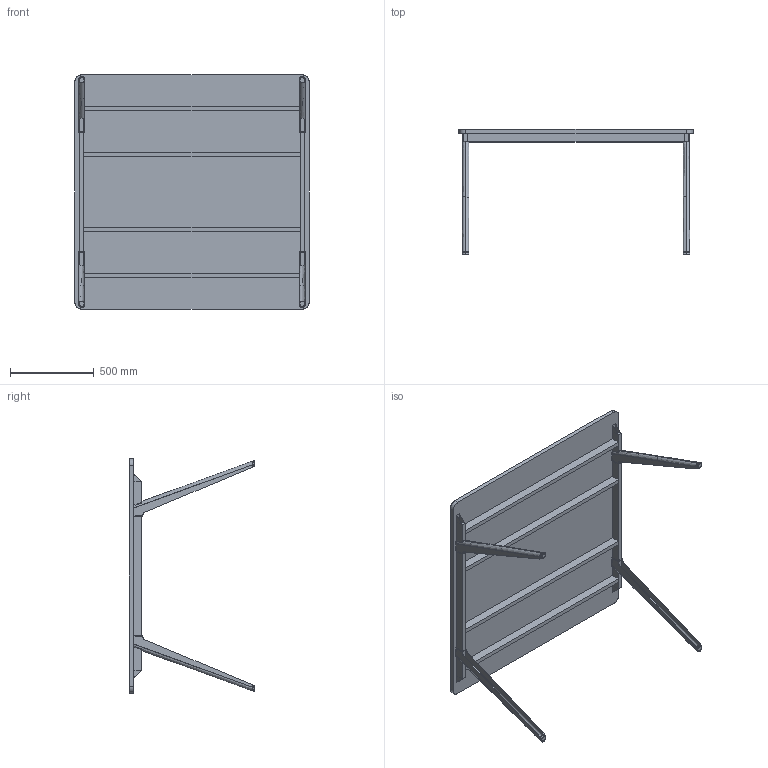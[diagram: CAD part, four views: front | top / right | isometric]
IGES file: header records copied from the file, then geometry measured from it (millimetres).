
Start section: SolidWorks IGES file using analytic representation for surfaces
Global section: file name: C:\Users\simone.cerana\OneDrive - Gruppo Tecno\Desktop\CHINA\DISEGNI DI SERIE\ASSIEMI LISTINO\HORIZON LISTINO\HO1414MS.IGS; native system: SolidWorks 2024; preprocessor: SolidWorks 2024; author: simone.cerana; date: 260508.124145; units: millimetre
Bounding box: 1400 x 749.83 x 1400 mm (x, y, z)
Surface area: 5601131 mm2 (no closed solid volume)
Topology: 0 solids, 0 shells, 272 faces, 3652 edges, 3652 vertices
Faces by surface type: bspline 184, revolution 88
